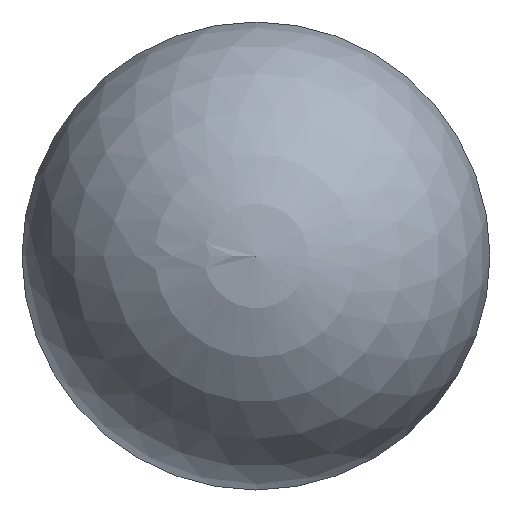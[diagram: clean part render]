
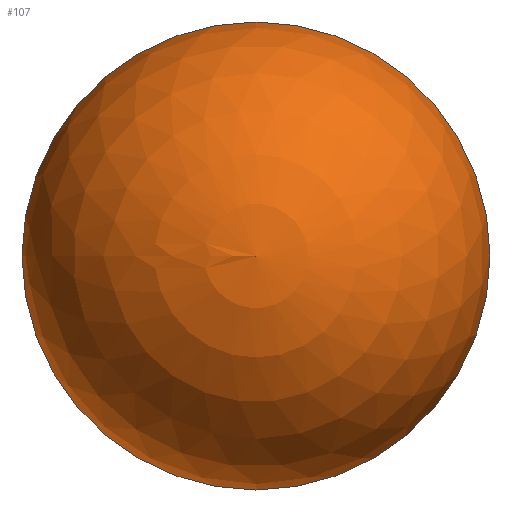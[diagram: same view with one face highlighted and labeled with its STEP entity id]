
A CAD part, left-side view. The second image highlights one B-rep face of the part: STEP entity #107.
In plain terms, the highlighted spherical face has radius 4 mm.
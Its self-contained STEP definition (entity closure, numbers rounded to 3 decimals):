
#95=SPHERICAL_SURFACE('',#187,4.);
#101=FACE_OUTER_BOUND('',#134,.T.);
#107=ADVANCED_FACE('',(#101),#95,.T.);
#134=EDGE_LOOP('',(#148));
#148=ORIENTED_EDGE('',*,*,#166,.T.);
#159=VERTEX_POINT('',#241);
#166=EDGE_CURVE('',#159,#159,#173,.T.);
#173=CIRCLE('',#186,4.);
#186=AXIS2_PLACEMENT_3D('',#240,#214,#215);
#187=AXIS2_PLACEMENT_3D('',#242,#216,#217);
#214=DIRECTION('',(-1.,0.,0.));
#215=DIRECTION('',(0.,-1.,0.));
#216=DIRECTION('',(-1.,0.,0.));
#217=DIRECTION('',(0.,1.,0.));
#240=CARTESIAN_POINT('',(7855.76,6110.285,0.));
#241=CARTESIAN_POINT('',(7855.76,6106.285,0.));
#242=CARTESIAN_POINT('',(7855.76,6110.285,0.));
